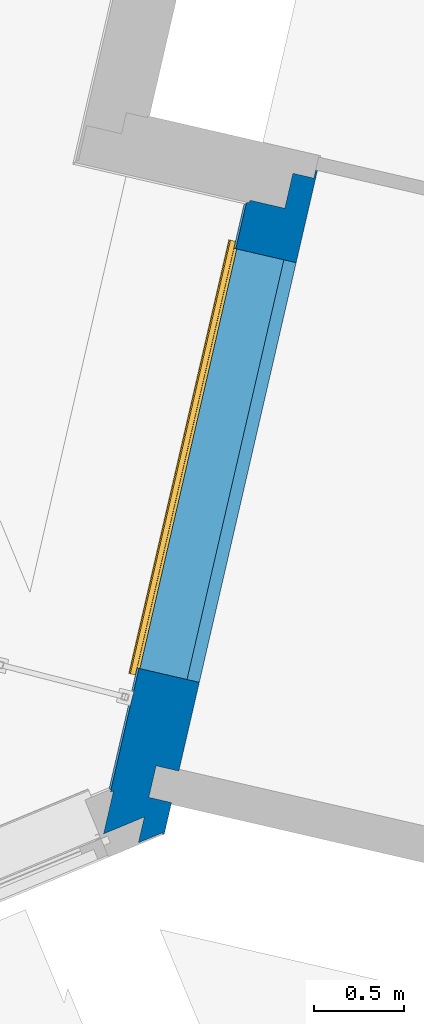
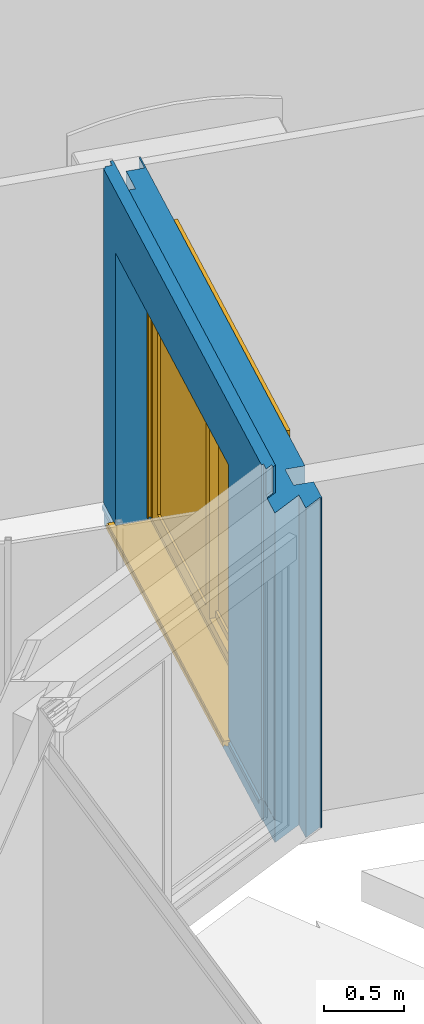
# One storey, part 17 of 119: 1 wall, 1 window, 1 opening.
"""IFC2X3 building model written with IfcOpenShell, lengths in metres."""

from ifc_helpers import new_model, entity, si_unit, converted_unit, derived_unit, money_unit, direction, frame, origin_with_axes, place, context, subcontext, project, spatial, open_shell, faceted_brep, surface_model, source, transform, mapped, material, material_list, type_object, element, fill, save


model = new_model("IFC2X3")

# Units and contexts
model_context = context("Model", 3, precision=1e-05, world=origin_with_axes(), true_north=direction((0.0, 1.0)))
body_context = subcontext(model_context, "Body", "Model", "MODEL_VIEW")
ifc_project = project(units=[si_unit("LENGTHUNIT", "METRE"), si_unit("AREAUNIT", "SQUARE_METRE"), si_unit("VOLUMEUNIT", "CUBIC_METRE"), converted_unit("PLANEANGLEUNIT", "DEGREE", entity("IfcPlaneAngleMeasure", 0.0174532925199), si_unit("PLANEANGLEUNIT", "RADIAN"), dimensions=[0, 0, 0, 0, 0, 0, 0]), si_unit("SOLIDANGLEUNIT", "STERADIAN"), money_unit("EUR"), converted_unit("TIMEUNIT", "Year", entity("IfcTimeMeasure", 31556926.0), si_unit("TIMEUNIT", "SECOND"), dimensions=[0, 0, 1, 0, 0, 0, 0]), si_unit("MASSUNIT", "GRAM", prefix="KILO"), si_unit("THERMODYNAMICTEMPERATUREUNIT", "DEGREE_CELSIUS"), si_unit("LUMINOUSINTENSITYUNIT", "LUMEN"), si_unit("ENERGYUNIT", "JOULE", prefix="MEGA"), derived_unit("THERMALCONDUCTANCEUNIT", [(si_unit("POWERUNIT", "WATT"), 1), (si_unit("LENGTHUNIT", "METRE"), -1), (si_unit("THERMODYNAMICTEMPERATUREUNIT", "KELVIN"), -1)]), derived_unit("SPECIFICHEATCAPACITYUNIT", [(si_unit("ENERGYUNIT", "JOULE"), 1), (si_unit("MASSUNIT", "GRAM", prefix="KILO"), -1), (si_unit("THERMODYNAMICTEMPERATUREUNIT", "KELVIN"), -1)]), derived_unit("MASSDENSITYUNIT", [(si_unit("MASSUNIT", "GRAM", prefix="KILO"), 1), (si_unit("VOLUMEUNIT", "CUBIC_METRE"), -1)])], contexts=[model_context])

# Site, building, storey
site_placement = place(None, origin_with_axes())
site = spatial("IfcSite", under=ifc_project, at=site_placement, Name="Site", CompositionType="ELEMENT")
building_placement = place(site_placement, origin_with_axes())
building = spatial("IfcBuilding", under=site, at=building_placement, Name="Bâtiment", CompositionType="ELEMENT")
storey_placement = place(building_placement, origin_with_axes())
storey = spatial("IfcBuildingStorey", under=building, at=storey_placement, Name="Rez-de-chaussée", CompositionType="ELEMENT", Elevation=0.0)

# Wall, opening, window
ifc_material_1 = material(Name="Finition int - Plaque de plâtre")
ifc_material_2 = material(Name="Isolation - Polystyrène extrudé")
ifc_material_3 = material(Name="Bloc ELITHERM")
ifc_material_4 = material(Name="Isolation - Polystyrène expansé")
ifc_material_5 = material(Name="Mortier")
ifc_material_6 = material(Name="Béton cellulaire")
ifc_material_7 = material(Name="Etanchéité - Bitume")
ifc_material_8 = material(Name="Finition ext - Crépis")
ifc_material_9 = material(Name="Métal - Aluminium")
ifc_material_list = material_list([ifc_material_1, ifc_material_2, ifc_material_3, ifc_material_4, ifc_material_5, ifc_material_6, ifc_material_7, ifc_material_8, ifc_material_9])
wall_type = type_object("IfcWallType", Name="Mur ALKERN + planelle 21 TERRASSE RDC 356 x 2720", PredefinedType="USERDEFINED")
wall_placement = place(storey_placement, frame((-19.0234065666, -9.48828387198, 0.0), z_axis=(0.0, 0.0, 1.0), x_axis=(-0.224876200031, -0.974387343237, 0.0)))
wall = element("IfcWall", 1, at=wall_placement, inside=storey, type_object=wall_type, material=ifc_material_list, Name="Mue bloc ALKERN isolé", ObjectType="SOLIDWALL", context=body_context, shape_type="Brep", body=[
    faceted_brep([(3.35353279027, 0.344999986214, 2.50955), (3.53339989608, 0.344999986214, 2.50955002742), (3.53339989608, 0.344999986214, 0.0), (3.35353279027, 0.344999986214, 0.0), (3.35353279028, 0.335000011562, 2.50955), (3.54053865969, 0.335000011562, 2.50955002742), (3.54053865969, 0.335000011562, 0.0), (3.35353279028, 0.335000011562, 0.0)], [[[0, 1, 2, 3]], [[1, 0, 4, 5]], [[5, 6, 2, 1]], [[6, 7, 3, 2]], [[7, 4, 0, 3]], [[5, 4, 7, 6]]]),
    faceted_brep([(3.17353279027, 0.344999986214, 0.0), (-0.335000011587, 0.344999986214, 0.0), (-0.335000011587, 0.344999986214, 2.50955001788), (3.17353279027, 0.344999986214, 2.50955), (2.66608413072, 0.344999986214, 2.25), (2.66608413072, 0.344999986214, 2.43), (0.266084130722, 0.344999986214, 2.43), (0.266084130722, 0.344999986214, 2.25), (0.266084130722, 0.344999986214, 0.2), (2.66608413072, 0.344999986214, 0.2), (3.17353279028, 0.335000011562, 0.0), (-0.335000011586, 0.335000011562, 0.0), (-0.335000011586, 0.335000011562, 2.50955001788), (3.17353279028, 0.335000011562, 2.50955), (2.66608413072, 0.335000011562, 2.25), (2.66608413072, 0.335000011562, 2.43), (2.66608413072, 0.335000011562, 0.2), (0.266084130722, 0.335000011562, 2.43), (0.266084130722, 0.335000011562, 2.25), (0.266084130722, 0.335000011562, 0.2)], [[[0, 1, 2, 3], [4, 5, 6, 7, 8, 9]], [[10, 11, 1, 0]], [[2, 1, 11, 12]], [[3, 2, 12, 13]], [[13, 10, 0, 3]], [[14, 15, 5, 4, 9, 16]], [[6, 5, 15, 17]], [[7, 6, 17, 18, 19, 8]], [[8, 19, 16, 9]], [[11, 10, 13, 12], [15, 14, 16, 19, 18, 17]]]),
    faceted_brep([(3.35353279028, 0.335000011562, 2.50955), (3.52825199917, 0.335000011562, 2.5095500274), (3.52825199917, 0.335000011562, 0.0), (3.35353279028, 0.335000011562, 0.0), (3.35353279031, 0.21499997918, 2.50955), (3.61391740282, 0.21499997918, 2.50955002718), (3.61391740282, 0.21499997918, 0.0), (3.35353279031, 0.21499997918, 0.0)], [[[0, 1, 2, 3]], [[1, 0, 4, 5]], [[2, 1, 5, 6]], [[6, 7, 3, 2]], [[7, 4, 0, 3]], [[5, 4, 7, 6]]]),
    faceted_brep([(0.266084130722, 0.21499997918, 0.2), (0.266084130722, 0.21499997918, 0.14), (0.266084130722, 0.274560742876, 0.14), (0.266084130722, 0.274560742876, 0.2), (0.266084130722, 0.335000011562, 0.2), (0.266084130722, 0.335000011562, 2.25), (0.266084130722, 0.335000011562, 2.43), (0.266084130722, 0.21499997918, 2.43), (0.266084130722, 0.21499997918, 2.25), (3.17353279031, 0.21499997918, 2.50955), (-0.214999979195, 0.21499997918, 2.50955001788), (-0.214999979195, 0.21499997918, 0.0), (3.17353279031, 0.21499997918, 0.0), (2.66608413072, 0.21499997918, 2.43), (2.66608413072, 0.21499997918, 2.25), (2.66608413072, 0.21499997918, 0.2), (2.66608413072, 0.21499997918, 0.14), (2.66608413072, 0.274560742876, 0.14), (2.66608413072, 0.274560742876, 0.2), (2.66608413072, 0.335000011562, 0.2), (-0.214999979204, 0.335000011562, 2.50955001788), (3.17353279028, 0.335000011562, 2.50955), (3.17353279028, 0.335000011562, 0.0), (-0.214999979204, 0.335000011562, 0.0), (2.66608413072, 0.335000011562, 2.25), (2.66608413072, 0.335000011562, 2.43)], [[[0, 1, 2, 3, 4, 5, 6, 7, 8]], [[9, 10, 11, 12], [1, 0, 8, 7, 13, 14, 15, 16]], [[1, 16, 17, 2]], [[18, 3, 2, 17]], [[3, 18, 19, 4]], [[20, 21, 22, 23], [5, 4, 19, 24, 25, 6]], [[25, 13, 7, 6]], [[10, 9, 21, 20]], [[11, 10, 20, 23]], [[23, 22, 12, 11]], [[22, 21, 9, 12]], [[18, 17, 16, 15, 14, 13, 25, 24, 19]]]),
    faceted_brep([(0.266084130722, 0.0160453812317, 0.207793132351), (0.266084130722, 0.0160453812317, 0.2), (0.266084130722, 0.0160453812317, 0.1697277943), (0.266084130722, 0.015, 0.169414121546), (0.266084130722, 0.0150000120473, 0.160000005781), (0.266084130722, 0.0150000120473, 0.14), (0.266084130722, 0.214999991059, 0.14), (0.266084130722, 0.214999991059, 0.2), (0.266084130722, 0.214999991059, 2.25), (0.266084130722, 0.214999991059, 2.43), (0.266084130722, 0.203560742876, 2.43), (0.266084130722, 0.203560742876, 2.25), (0.266084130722, 0.015, 2.25), (0.266084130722, 0.015, 0.207793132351), (-0.016045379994, 0.0160453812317, 0.169727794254), (-0.0150000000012, 0.0160453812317, 0.207793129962), (-0.0160453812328, 0.0160453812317, 0.207793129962), (-0.0150000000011, 0.015, 0.169414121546), (-0.0150000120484, 0.0150000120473, 0.160000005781), (2.66608413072, 0.0150000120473, 0.14), (-0.0150000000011, 0.015, 0.0), (3.60925296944, 0.015, 0.0), (3.60925296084, 0.0150000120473, 0.160000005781), (2.66608413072, 0.0150000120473, 0.160000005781), (2.66608413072, 0.214999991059, 0.14), (-0.0150000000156, 0.214999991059, 2.50955001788), (3.46647734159, 0.214999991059, 2.50955002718), (3.46647734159, 0.214999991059, 0.0), (-0.0150000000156, 0.214999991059, 0.0), (-0.015000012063, 0.214999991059, 0.160000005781), (-0.0150000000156, 0.214999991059, 0.169414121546), (-0.0160453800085, 0.214999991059, 0.169727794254), (-0.0160453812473, 0.214999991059, 0.207793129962), (-0.0150000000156, 0.214999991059, 0.207793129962), (2.66608413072, 0.214999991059, 0.2), (2.66608413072, 0.214999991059, 2.25), (2.66608413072, 0.214999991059, 2.43), (2.66608413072, 0.203560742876, 2.43), (2.66608413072, 0.203560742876, 2.25), (2.66608413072, 0.015, 2.25), (2.66608413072, 0.015, 0.207793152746), (3.60925296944, 0.015, 0.207793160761), (3.60925296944, 0.015, 2.50955002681), (-0.0150000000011, 0.015, 2.50955001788), (-0.0150000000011, 0.015, 0.207793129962), (3.56070926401, 0.0829999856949, 2.50955002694), (3.6085066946, 0.0160453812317, 0.207793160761), (3.6085066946, 0.0160453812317, 0.169727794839), (3.60925296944, 0.015, 0.169414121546), (2.66608413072, 0.015, 0.169414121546), (2.66608413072, 0.0160453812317, 0.169727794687), (2.66608413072, 0.0160453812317, 0.2), (2.66608413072, 0.0160453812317, 0.20779315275), (-0.015000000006, 0.0829999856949, 2.50955001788)], [[[0, 1, 2, 3, 4, 5, 6, 7, 8, 9, 10, 11, 12, 13]], [[14, 2, 1, 0, 15, 16]], [[17, 3, 2, 14]], [[18, 4, 3, 17]], [[19, 5, 4, 18, 20, 21, 22, 23]], [[19, 24, 6, 5]], [[25, 26, 27, 28, 29, 30, 31, 32, 33], [6, 24, 34, 35, 36, 9, 8, 7]], [[9, 36, 37, 10]], [[38, 11, 10, 37]], [[11, 38, 39, 12]], [[40, 41, 42, 43, 44, 13, 12, 39]], [[13, 44, 15, 0]], [[33, 32, 16, 15]], [[14, 16, 32, 31]], [[17, 14, 31, 30]], [[29, 18, 17, 30]], [[18, 29, 28, 20]], [[21, 20, 28, 27]], [[26, 45, 42, 41, 46, 47, 48, 22, 21, 27]], [[48, 49, 23, 22]], [[35, 34, 24, 19, 23, 49, 50, 51, 52, 40, 39, 38, 37, 36]], [[25, 53, 45, 26]], [[53, 25, 33, 15, 44, 43]], [[52, 46, 41, 40]], [[53, 43, 42, 45]], [[52, 51, 50, 47, 46]], [[47, 50, 49, 48]]]),
    faceted_brep([(3.39852529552, 0.0830000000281, 2.72), (3.39852529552, 0.0830000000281, 2.51999998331), (-0.0630000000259, 0.0830000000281, 2.51999999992), (-0.0630000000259, 0.0830000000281, 2.72), (3.41280285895, 0.0630000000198, 2.72), (3.41280285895, 0.0630000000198, 2.51999998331), (-0.0630000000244, 0.0630000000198, 2.51999999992), (-0.0630000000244, 0.0630000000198, 2.72)], [[[0, 1, 2, 3]], [[0, 4, 5, 1]], [[1, 5, 6, 2]], [[2, 6, 7, 3]], [[4, 0, 3, 7]], [[5, 4, 7, 6]]]),
    faceted_brep([(-0.015000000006, 0.083, 2.50955), (-0.015000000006, 0.083, 2.52), (3.39852529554, 0.083, 2.51999998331), (3.39852523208, 0.083, 2.50955002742), (-0.0150000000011, 0.015, 2.52), (-0.0150000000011, 0.015, 2.50955), (3.44706901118, 0.015, 2.51999998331), (3.44706894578, 0.015, 2.50955002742)], [[[0, 1, 2, 3]], [[4, 1, 0, 5]], [[1, 4, 6, 2]], [[7, 3, 2, 6]], [[5, 0, 3, 7]], [[4, 5, 7, 6]]]),
    faceted_brep([(3.42249564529, 0.015, 2.71999999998), (3.38822949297, 0.0630000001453, 2.71999999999), (-0.0150000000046, 0.0630000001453, 2.72), (-0.0150000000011, 0.015, 2.72), (3.38822949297, 0.0630000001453, 2.5199999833), (3.42249564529, 0.015, 2.51999998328), (-0.0150000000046, 0.0630000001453, 2.51999999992), (-0.0150000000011, 0.015, 2.51999999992)], [[[0, 1, 2, 3]], [[4, 1, 0, 5]], [[1, 4, 6, 2]], [[3, 2, 6, 7]], [[5, 0, 3, 7]], [[4, 5, 7, 6]]]),
    faceted_brep([(0.266084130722, 0.005, 0.160000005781), (0.266084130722, 0.0150000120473, 0.160000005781), (-0.00500000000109, 0.0150000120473, 0.160000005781), (-0.00500000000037, 0.005, 0.160000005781), (0.266084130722, 0.0149815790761, 0.14), (0.266084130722, 0.005, 0.14), (2.66608413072, 0.0149815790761, 0.14), (2.66608413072, 0.0150000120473, 0.160000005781), (3.36351964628, 0.0150000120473, 0.160000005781), (-0.00500000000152, 0.0149999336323, 0.01), (-0.00500000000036, 0.005, 0.01), (3.3706584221, 0.00499999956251, 0.01), (3.37065843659, 0.005, 0.160000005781), (2.66608413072, 0.005, 0.160000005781), (2.66608413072, 0.005, 0.14), (3.36353279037, 0.0149815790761, 0.01)], [[[0, 1, 2, 3]], [[4, 1, 0, 5]], [[6, 7, 8, 9, 2, 1, 4]], [[10, 3, 2, 9]], [[5, 0, 3, 10, 11, 12, 13, 14]], [[6, 4, 5, 14]], [[13, 7, 6, 14]], [[7, 13, 12, 8]], [[15, 9, 8]], [[9, 15, 11, 10]], [[15, 8, 12, 11]]]),
    faceted_brep([(0.266084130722, 0.0150000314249, 0.2), (0.266084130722, 0.0150000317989, 0.176532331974), (-3.18970805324e-09, 0.0150000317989, 0.176532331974), (-3.18970805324e-09, 0.0149999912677, 2.72), (3.36351964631, 0.0149999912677, 2.71999999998), (3.36351961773, 0.0150000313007, 0.207793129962), (3.36351965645, 0.0150000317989, 0.176532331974), (2.66608413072, 0.0150000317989, 0.176532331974), (2.66608413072, 0.0150000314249, 0.2), (2.66608413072, 0.0149999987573, 2.25), (0.266084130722, 0.0149999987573, 2.25), (0.266084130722, 2.81464807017e-09, 0.2), (0.266084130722, 3.18861026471e-09, 0.176532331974), (0.266084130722, -2.98529414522e-08, 2.25), (-3.18861737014e-09, 3.18861381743e-09, 0.176532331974), (-3.18861737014e-09, 3.18861737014e-09, 2.72), (3.37422781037, 3.18861026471e-09, 2.71999999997), (3.37422781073, 2.69046296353e-09, 0.207793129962), (3.37422784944, 3.18861381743e-09, 0.176532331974), (2.66608413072, 3.18861381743e-09, 0.176532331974), (2.66608413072, 2.81464807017e-09, 0.2), (2.66608413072, -2.98529378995e-08, 2.25)], [[[0, 1, 2, 3, 4, 5, 6, 7, 8, 9, 10]], [[11, 12, 1, 0, 10, 13]], [[1, 12, 14, 2]], [[3, 2, 14, 15]], [[4, 3, 15, 16]], [[16, 17, 5, 4]], [[17, 18, 6, 5]], [[19, 7, 6, 18]], [[8, 7, 19, 20, 21, 9]], [[9, 21, 13, 10]], [[12, 11, 13, 21, 20, 19, 18, 17, 16, 15, 14]]]),
    faceted_brep([(0.266084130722, 0.0150000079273, 0.2), (0.266084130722, 0.0160453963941, 0.2), (0.266084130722, 0.0160453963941, 0.207793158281), (0.266084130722, 0.015, 0.207793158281), (0.266084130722, 0.0160453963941, 0.169727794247), (0.266084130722, 0.0150000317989, 0.176532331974), (0.266084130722, 0.015, 0.170774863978), (0.266084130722, -0.0114392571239, 0.162931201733), (0.266084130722, -0.0114392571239, 0.14), (0.266084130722, -0.010205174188, 0.14), (0.266084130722, -0.0102051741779, 0.161852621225), (0.266084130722, 0.015, 0.169414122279), (-0.0114705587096, 0.0160453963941, 0.169727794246), (-0.0149999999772, 0.0160453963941, 0.17077486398), (-0.0150000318, 0.0160453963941, 0.176532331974), (-0.0150000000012, 0.0160453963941, 0.207793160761), (-0.0150000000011, 0.015, 0.207793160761), (-0.0150000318, 0.0150000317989, 0.176532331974), (-0.0149999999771, 0.015, 0.17077486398), (-0.0104132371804, 0.0104132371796, 0.169414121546), (0.0114392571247, -0.0114392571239, 0.162931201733), (0.0114392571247, -0.0114392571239, 0.160000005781), (0.0114392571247, -0.0114392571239, 0.133633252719), (3.35142530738, -0.0114392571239, 0.133633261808), (3.35142530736, -0.011439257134, 0.160000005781), (3.35142530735, -0.0114392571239, 0.161852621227), (3.35584272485, -0.0114392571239, 0.162931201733), (2.66608413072, -0.0114392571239, 0.162931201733), (2.66608413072, -0.0114392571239, 0.14), (2.66608413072, -0.010205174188, 0.14), (2.66608413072, -0.0102051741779, 0.161852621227), (3.35054432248, -0.0102051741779, 0.161852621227), (3.35054432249, -0.010205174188, 0.160000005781), (3.3505443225, -0.0102051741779, 0.133633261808), (0.0114392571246, -0.0102051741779, 0.133633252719), (0.0114392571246, -0.0102051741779, 0.160000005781), (0.0114392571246, -0.0102051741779, 0.161852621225), (0.0114392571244, -0.00660987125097, 0.162931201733), (-0.0104132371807, 0.015, 0.169414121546), (3.36351964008, 0.015, 0.169414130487), (3.36679400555, 0.010413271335, 0.169414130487), (2.66608413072, 0.015, 0.170774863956), (3.3673236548, 0.0114705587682, 0.169727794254), (3.36480406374, 0.015, 0.17077486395), (2.66608413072, 0.0150000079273, 0.2), (2.66608413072, 0.0160453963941, 0.2), (2.66608413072, 0.0160453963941, 0.169727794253), (2.66608413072, 0.015, 0.169414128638), (2.66608413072, 0.0150000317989, 0.176532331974), (3.36405777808, 0.0160453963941, 0.169727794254), (3.36405777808, 0.0160453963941, 0.176532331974), (3.36480404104, 0.0150000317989, 0.176532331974), (2.66608413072, 0.015, 0.207793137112), (2.66608413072, 0.0160453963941, 0.207793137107), (3.36405777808, 0.0160453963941, 0.207793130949), (3.36480406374, 0.015, 0.207793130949)], [[[0, 1, 2, 3]], [[4, 1, 0, 5, 6, 7, 8, 9, 10, 11]], [[1, 4, 12, 13, 14, 15, 2]], [[2, 15, 16, 3]], [[5, 0, 3, 16, 17]], [[6, 5, 17, 18]], [[7, 6, 18, 19, 20]], [[8, 7, 20, 21, 22, 23, 24, 25, 26, 27, 28]], [[29, 9, 8, 28]], [[29, 30, 31, 32, 33, 34, 35, 36, 10, 9]], [[11, 10, 36, 37, 38]], [[4, 11, 38, 12]], [[18, 13, 12, 38, 19]], [[18, 17, 14, 13]], [[17, 16, 15, 14]], [[19, 38, 37, 20]], [[36, 35, 21, 20, 37]], [[21, 35, 34, 22]], [[34, 33, 23, 22]], [[32, 24, 23, 33]], [[32, 31, 25, 24]], [[26, 25, 31, 39, 40]], [[41, 27, 26, 40, 42, 43]], [[44, 45, 46, 47, 30, 29, 28, 27, 41, 48]], [[30, 47, 39, 31]], [[40, 39, 49, 42]], [[49, 50, 51, 43, 42]], [[48, 41, 43, 51]], [[45, 44, 52, 53]], [[46, 45, 53, 54, 50, 49]], [[47, 46, 49, 39]], [[44, 48, 51, 55, 52]], [[55, 51, 50, 54]], [[52, 55, 54, 53]]]),
])
opening_placement = place(wall_placement, frame((1.46608413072, 0.0, 0.2), z_axis=(0.0, 0.0, 1.0), x_axis=(1.0, 0.0, 0.0)))
opening = element("IfcOpeningElement", 2, at=opening_placement, cuts=wall, Name="MEN 17", context=body_context, shape_type="Brep", body=[
    faceted_brep([(-1.2, 0.834999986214, 0.0), (1.2, 0.834999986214, 0.0), (1.2, 0.233560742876, 0.0), (-1.2, 0.233560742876, 0.0), (-1.2, 0.834999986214, 2.05), (1.2, 0.834999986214, 2.05), (1.2, 0.233560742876, 2.05), (-1.2, 0.233560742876, 2.05)], [[[0, 1, 2, 3]], [[0, 4, 5, 1]], [[1, 5, 6, 2]], [[3, 2, 6, 7]], [[4, 0, 3, 7]], [[5, 4, 7, 6]]]),
    faceted_brep([(-1.2, -0.367878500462, 0.0), (-1.2, -0.367878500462, 2.05), (-1.2, 0.233560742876, 2.05), (-1.2, 0.233560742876, 0.0), (1.2, -0.367878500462, 0.0), (1.2, -0.367878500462, 2.05), (1.2, 0.233560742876, 2.05), (1.2, 0.233560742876, 0.0)], [[[0, 1, 2, 3]], [[0, 4, 5, 1]], [[1, 5, 6, 2]], [[3, 2, 6, 7]], [[4, 0, 3, 7]], [[5, 4, 7, 6]]]),
    faceted_brep([(-1.2, -0.367878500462, 0.0), (-1.2, -0.367878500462, 2.05), (-1.2, 0.233560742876, 2.05), (-1.2, 0.233560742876, 0.0), (1.2, -0.367878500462, 0.0), (1.2, -0.367878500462, 2.05), (1.2, 0.233560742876, 2.05), (1.2, 0.233560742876, 0.0)], [[[0, 1, 2, 3]], [[0, 4, 5, 1]], [[1, 5, 6, 2]], [[3, 2, 6, 7]], [[4, 0, 3, 7]], [[5, 4, 7, 6]]]),
    faceted_brep([(-1.2, 0.804999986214, 2.05), (1.2, 0.804999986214, 2.05), (1.2, 0.203560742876, 2.05), (-1.2, 0.203560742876, 2.05), (-1.2, 0.804999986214, 2.23), (1.2, 0.804999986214, 2.23), (1.2, 0.203560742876, 2.23), (-1.2, 0.203560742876, 2.23)], [[[0, 1, 2, 3]], [[0, 4, 5, 1]], [[1, 5, 6, 2]], [[3, 2, 6, 7]], [[4, 0, 3, 7]], [[5, 4, 7, 6]]]),
    faceted_brep([(-1.2, -0.326878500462, 0.0), (1.2, -0.326878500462, 0.0), (1.2, 0.274560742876, 0.0), (-1.2, 0.274560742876, 0.0), (-1.2, -0.326878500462, -0.06), (1.2, -0.326878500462, -0.06), (1.2, 0.274560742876, -0.06), (-1.2, 0.274560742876, -0.06)], [[[0, 1, 2, 3]], [[0, 4, 5, 1]], [[1, 5, 6, 2]], [[3, 2, 6, 7]], [[4, 0, 3, 7]], [[5, 4, 7, 6]]]),
])
window_style = type_object("IfcWindowStyle", Name="Baie générique 2017 v2", ConstructionType="NOTDEFINED", OperationType="NOTDEFINED", ParameterTakesPrecedence=False, Sizeable=False)
shared_shape = source(origin_with_axes(), body_context, "Body", "SurfaceModel", [
    faceted_brep([(-1.2, 0.1, 0.0), (1.2, 0.1, 0.0), (1.2, 0.0, 0.0), (-1.2, 0.0, 0.0), (-1.2, 0.1, 2.05), (1.2, 0.1, 2.05), (-1.14, 0.1, 0.05), (1.14, 0.1, 0.05), (1.14, 0.1, 2.0), (-1.14, 0.1, 2.0), (1.2, 0.0, 2.05), (-1.2, 0.0, 2.05), (-1.14, 0.0, 0.05), (-1.14, 0.0, 2.0), (1.14, 0.0, 2.0), (1.14, 0.0, 0.05)], [[[0, 1, 2, 3]], [[0, 4, 5, 1], [6, 7, 8, 9]], [[1, 5, 10, 2]], [[3, 2, 10, 11], [12, 13, 14, 15]], [[4, 0, 3, 11]], [[5, 4, 11, 10]], [[7, 6, 12, 15]], [[8, 7, 15, 14]], [[9, 8, 14, 13]], [[6, 9, 13, 12]]]),
    faceted_brep([(-1.14, 0.04, 0.05), (-1.14, 0.04, 2.0), (0.035, 0.04, 2.0), (0.035, 0.04, 0.05), (-0.035, 0.04, 1.93), (-1.07, 0.04, 1.93), (-1.07, 0.04, 0.1), (-0.035, 0.04, 0.1), (-1.14, 0.0, 2.0), (-1.14, 0.02, 2.0), (-1.14, 0.02, 0.05), (-1.14, 0.0, 0.05), (0.035, 0.0, 2.0), (0.035, 0.02, 2.0), (0.035, 0.0, 0.05), (0.035, 0.02, 0.05), (-0.035, 0.0, 1.93), (-1.07, 0.0, 1.93), (-1.07, 0.0, 0.1), (-0.035, 0.0, 0.1)], [[[0, 1, 2, 3], [4, 5, 6, 7]], [[8, 9, 1, 0, 10, 11]], [[12, 13, 2, 1, 9, 8]], [[13, 12, 14, 15, 3, 2]], [[15, 14, 11, 10, 0, 3]], [[5, 4, 16, 17]], [[18, 6, 5, 17]], [[19, 7, 6, 18]], [[4, 7, 19, 16]], [[12, 8, 11, 14], [19, 18, 17, 16]]]),
    surface_model("IfcShellBasedSurfaceModel", [(-1.14, 0.04, 0.05), (-1.14, 0.04, 2.0), (0.035, 0.04, 2.0), (0.035, 0.04, 0.05), (-1.07, 0.04, 0.1), (-0.035, 0.04, 0.1), (-0.035, 0.04, 1.93), (-1.07, 0.04, 1.93)], [open_shell([[[0, 1, 2, 3], [4, 5, 6, 7]]])]),
    surface_model("IfcShellBasedSurfaceModel", [(-1.14, 0.0, 0.05), (-1.14, 0.0, 2.0), (0.035, 0.0, 2.0), (0.035, 0.0, 0.05), (-1.07, 0.0, 0.1), (-0.035, 0.0, 0.1), (-0.035, 0.0, 1.93), (-1.07, 0.0, 1.93)], [open_shell([[[0, 1, 2, 3], [4, 5, 6, 7]]])]),
    faceted_brep([(-1.07, 0.0225, 0.1), (-0.035, 0.0225, 0.1), (-0.035, 0.0175, 0.1), (-1.07, 0.0175, 0.1), (-1.07, 0.0225, 1.93), (-0.035, 0.0225, 1.93), (-0.035, 0.0175, 1.93), (-1.07, 0.0175, 1.93)], [[[0, 1, 2, 3]], [[0, 4, 5, 1]], [[1, 5, 6, 2]], [[3, 2, 6, 7]], [[4, 0, 3, 7]], [[5, 4, 7, 6]]]),
    faceted_brep([(-0.035, 0.08, 0.05), (-0.035, 0.08, 2.0), (1.14, 0.08, 2.0), (1.14, 0.08, 0.05), (1.07, 0.08, 1.93), (0.035, 0.08, 1.93), (0.035, 0.08, 0.1), (1.07, 0.08, 0.1), (-0.035, 0.04, 2.0), (-0.035, 0.06, 2.0), (-0.035, 0.06, 0.05), (-0.035, 0.04, 0.05), (1.14, 0.04, 2.0), (1.14, 0.06, 2.0), (1.14, 0.04, 0.05), (1.14, 0.06, 0.05), (1.07, 0.04, 1.93), (0.035, 0.04, 1.93), (0.035, 0.04, 0.1), (1.07, 0.04, 0.1)], [[[0, 1, 2, 3], [4, 5, 6, 7]], [[8, 9, 1, 0, 10, 11]], [[12, 13, 2, 1, 9, 8]], [[13, 12, 14, 15, 3, 2]], [[15, 14, 11, 10, 0, 3]], [[5, 4, 16, 17]], [[18, 6, 5, 17]], [[19, 7, 6, 18]], [[4, 7, 19, 16]], [[12, 8, 11, 14], [19, 18, 17, 16]]]),
    surface_model("IfcShellBasedSurfaceModel", [(-0.035, 0.08, 0.05), (-0.035, 0.08, 2.0), (1.14, 0.08, 2.0), (1.14, 0.08, 0.05), (0.035, 0.08, 0.1), (1.07, 0.08, 0.1), (1.07, 0.08, 1.93), (0.035, 0.08, 1.93)], [open_shell([[[0, 1, 2, 3], [4, 5, 6, 7]]])]),
    surface_model("IfcShellBasedSurfaceModel", [(-0.035, 0.04, 0.05), (-0.035, 0.04, 2.0), (1.14, 0.04, 2.0), (1.14, 0.04, 0.05), (0.035, 0.04, 0.1), (1.07, 0.04, 0.1), (1.07, 0.04, 1.93), (0.035, 0.04, 1.93)], [open_shell([[[0, 1, 2, 3], [4, 5, 6, 7]]])]),
    faceted_brep([(0.035, 0.0625, 0.1), (1.07, 0.0625, 0.1), (1.07, 0.0575, 0.1), (0.035, 0.0575, 0.1), (0.035, 0.0625, 1.93), (1.07, 0.0625, 1.93), (1.07, 0.0575, 1.93), (0.035, 0.0575, 1.93)], [[[0, 1, 2, 3]], [[0, 4, 5, 1]], [[1, 5, 6, 2]], [[3, 2, 6, 7]], [[4, 0, 3, 7]], [[5, 4, 7, 6]]]),
    faceted_brep([(-1.2, -0.03, 0.0), (-1.175, -0.03, 0.0), (-1.175, -0.03, 2.05), (-1.2, -0.03, 2.05), (-1.2, -0.002, 0.0), (-1.175, -0.002, 0.0), (-1.175, -0.004, 0.0), (-1.198, -0.004, 0.0), (-1.198, -0.028, 0.0), (-1.175, -0.028, 0.0), (-1.175, -0.028, 2.05), (-1.198, -0.028, 2.05), (-1.198, -0.004, 2.05), (-1.175, -0.004, 2.05), (-1.175, -0.002, 2.05), (-1.2, -0.002, 2.05)], [[[0, 1, 2, 3]], [[0, 4, 5, 6, 7, 8, 9, 1]], [[1, 9, 10, 2]], [[3, 2, 10, 11, 12, 13, 14, 15]], [[4, 0, 3, 15]], [[5, 4, 15, 14]], [[6, 5, 14, 13]], [[7, 6, 13, 12]], [[8, 7, 12, 11]], [[9, 8, 11, 10]]]),
    faceted_brep([(1.2, -0.03, 0.0), (1.2, -0.03, 2.05), (1.175, -0.03, 2.05), (1.175, -0.03, 0.0), (1.2, -0.002, 0.0), (1.2, -0.002, 2.05), (1.175, -0.002, 2.05), (1.175, -0.004, 2.05), (1.198, -0.004, 2.05), (1.198, -0.028, 2.05), (1.175, -0.028, 2.05), (1.175, -0.028, 0.0), (1.198, -0.028, 0.0), (1.198, -0.004, 0.0), (1.175, -0.004, 0.0), (1.175, -0.002, 0.0)], [[[0, 1, 2, 3]], [[4, 5, 1, 0]], [[1, 5, 6, 7, 8, 9, 10, 2]], [[3, 2, 10, 11]], [[0, 3, 11, 12, 13, 14, 15, 4]], [[15, 6, 5, 4]], [[14, 7, 6, 15]], [[13, 8, 7, 14]], [[12, 9, 8, 13]], [[11, 10, 9, 12]]]),
    faceted_brep([(1.198, -0.028, 2.05), (-1.198, -0.028, 2.05), (-1.198, -0.028, 2.228), (1.198, -0.028, 2.228), (1.198, -0.03, 2.05), (-1.198, -0.03, 2.05), (-1.198, -0.03, 2.23), (-1.198, 0.17, 2.23), (-1.198, 0.17, 2.05), (-1.198, 0.168, 2.05), (-1.198, 0.168, 2.228), (1.198, 0.168, 2.228), (1.198, 0.168, 2.05), (1.198, 0.17, 2.05), (1.198, 0.17, 2.23), (1.198, -0.03, 2.23)], [[[0, 1, 2, 3]], [[4, 5, 1, 0]], [[1, 5, 6, 7, 8, 9, 10, 2]], [[3, 2, 10, 11]], [[0, 3, 11, 12, 13, 14, 15, 4]], [[15, 6, 5, 4]], [[14, 7, 6, 15]], [[13, 8, 7, 14]], [[12, 9, 8, 13]], [[11, 10, 9, 12]]]),
    faceted_brep([(1.198, 0.0724697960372, 2.12436337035), (1.198, 0.08, 2.14), (1.198, 0.0724697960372, 2.15563662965), (1.198, 0.0555495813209, 2.15949855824), (1.198, 0.041980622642, 2.14867767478), (1.198, 0.041980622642, 2.13132232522), (1.198, 0.0555495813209, 2.12050144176), (-1.198, 0.0724697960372, 2.12436337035), (-1.198, 0.08, 2.14), (-1.198, 0.0724697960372, 2.15563662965), (-1.198, 0.0555495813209, 2.15949855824), (-1.198, 0.041980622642, 2.14867767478), (-1.198, 0.041980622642, 2.13132232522), (-1.198, 0.0555495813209, 2.12050144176)], [[[0, 1, 2, 3, 4, 5, 6]], [[0, 7, 8, 1]], [[1, 8, 9, 2]], [[2, 9, 10, 3]], [[3, 10, 11, 4]], [[4, 11, 12, 5]], [[5, 12, 13, 6]], [[6, 13, 7, 0]], [[7, 13, 12, 11, 10, 9, 8]]]),
    faceted_brep([(1.188, 0.130275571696, 2.10615706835), (1.188, 0.138, 2.14), (1.188, 0.130275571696, 2.17384293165), (1.188, 0.108632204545, 2.20098285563), (1.188, 0.0773566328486, 2.21604437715), (1.188, 0.0426433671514, 2.21604437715), (1.188, 0.011367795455, 2.20098285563), (1.188, -0.0102755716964, 2.17384293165), (1.188, -0.018, 2.14), (1.188, -0.0102755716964, 2.10615706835), (1.188, 0.011367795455, 2.07901714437), (1.188, 0.0426433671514, 2.06395562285), (1.188, 0.0773566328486, 2.06395562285), (1.188, 0.108632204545, 2.07901714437), (-1.188, 0.130275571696, 2.10615706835), (-1.188, 0.138, 2.14), (-1.188, 0.130275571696, 2.17384293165), (-1.188, 0.108632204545, 2.20098285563), (-1.188, 0.0773566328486, 2.21604437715), (-1.188, 0.0426433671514, 2.21604437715), (-1.188, 0.011367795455, 2.20098285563), (-1.188, -0.0102755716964, 2.17384293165), (-1.188, -0.018, 2.14), (-1.188, -0.0102755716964, 2.10615706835), (-1.188, 0.011367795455, 2.07901714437), (-1.188, 0.0426433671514, 2.06395562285), (-1.188, 0.0773566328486, 2.06395562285), (-1.188, 0.108632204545, 2.07901714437)], [[[0, 1, 2, 3, 4, 5, 6, 7, 8, 9, 10, 11, 12, 13]], [[0, 14, 15, 1]], [[1, 15, 16, 2]], [[2, 16, 17, 3]], [[3, 17, 18, 4]], [[4, 18, 19, 5]], [[5, 19, 20, 6]], [[6, 20, 21, 7]], [[7, 21, 22, 8]], [[8, 22, 23, 9]], [[9, 23, 24, 10]], [[10, 24, 25, 11]], [[11, 25, 26, 12]], [[12, 26, 27, 13]], [[13, 27, 14, 0]], [[14, 27, 26, 25, 24, 23, 22, 21, 20, 19, 18, 17, 16, 15]]]),
    faceted_brep([(1.2, 0.17, 2.05), (1.198, 0.17, 2.05), (1.198, 0.17, 2.23), (1.2, 0.17, 2.23), (1.2, -0.03, 2.05), (1.198, -0.03, 2.05), (1.198, -0.03, 2.23), (1.2, -0.03, 2.23)], [[[0, 1, 2, 3]], [[4, 5, 1, 0]], [[1, 5, 6, 2]], [[3, 2, 6, 7]], [[0, 3, 7, 4]], [[7, 6, 5, 4]]]),
    faceted_brep([(-1.198, 0.17, 2.05), (-1.2, 0.17, 2.05), (-1.2, 0.17, 2.23), (-1.198, 0.17, 2.23), (-1.198, -0.03, 2.05), (-1.2, -0.03, 2.05), (-1.2, -0.03, 2.23), (-1.198, -0.03, 2.23)], [[[0, 1, 2, 3]], [[4, 5, 1, 0]], [[1, 5, 6, 2]], [[3, 2, 6, 7]], [[0, 3, 7, 4]], [[7, 6, 5, 4]]]),
    faceted_brep([(1.198, -0.004, 2.05), (-1.198, -0.004, 2.05), (-1.198, 0.168, 2.05), (1.198, 0.168, 2.05), (1.198, -0.004, 2.052), (-1.198, -0.004, 2.052), (-1.198, 0.168, 2.052), (1.198, 0.168, 2.052)], [[[0, 1, 2, 3]], [[4, 5, 1, 0]], [[1, 5, 6, 2]], [[3, 2, 6, 7]], [[0, 3, 7, 4]], [[7, 6, 5, 4]]]),
    faceted_brep([(-1.188, -0.006, 2.05), (-1.188, -0.006, 2.14), (1.188, -0.006, 2.14), (1.188, -0.006, 2.05), (-1.188, -0.026, 2.05), (-1.188, -0.026, 2.14), (1.188, -0.026, 2.14), (1.188, -0.026, 2.05)], [[[0, 1, 2, 3]], [[1, 0, 4, 5]], [[2, 1, 5, 6]], [[3, 2, 6, 7]], [[4, 0, 3, 7]], [[5, 4, 7, 6]]]),
    faceted_brep([(1.2, -0.00167949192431, -0.01), (1.2, 0.0, -0.00373205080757), (1.24, 0.0, -0.00373205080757), (1.24, 0.001, 0.0), (-1.24, 0.001, 0.0), (-1.24, 0.0, -0.00373205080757), (-1.2, 0.0, -0.00373205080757), (-1.2, -0.00167949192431, -0.01), (1.2, -0.009, -0.0173205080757), (1.2, -0.019, -0.02), (1.2, -0.233560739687, -0.02), (1.2, -0.233560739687, -0.06), (1.2, 0.0, -0.06), (1.24, 0.0, -0.06), (1.24, 0.041, -0.06), (1.24, 0.041, 0.0), (-1.24, 0.041, 0.0), (-1.24, 0.041, -0.06), (-1.24, 0.0, -0.06), (-1.2, 0.0, -0.06), (-1.2, -0.233560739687, -0.02), (-1.2, -0.019, -0.02), (-1.2, -0.009, -0.0173205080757), (-1.2, -0.233560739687, -0.06), (-1.24, -0.233560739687, -0.02), (-1.24, -0.273560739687, -0.02), (1.24, -0.273560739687, -0.02), (1.24, -0.233560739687, -0.02), (1.24, -0.233560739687, -0.06), (1.24, -0.263560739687, -0.06), (-1.24, -0.263560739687, -0.06), (-1.24, -0.233560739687, -0.06), (-1.24, -0.283560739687, -0.03), (-1.24, -0.280631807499, -0.0229289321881), (-1.24, -0.263560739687, -0.05), (-1.24, -0.273560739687, -0.05), (-1.24, -0.273560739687, -0.06), (-1.24, -0.283560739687, -0.06), (1.24, -0.280631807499, -0.0229289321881), (1.24, -0.283560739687, -0.03), (1.24, -0.283560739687, -0.06), (1.24, -0.273560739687, -0.06), (1.24, -0.273560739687, -0.05), (1.24, -0.263560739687, -0.05)], [[[0, 1, 2, 3, 4, 5, 6, 7]], [[1, 0, 8, 9, 10, 11, 12]], [[13, 2, 1, 12]], [[2, 13, 14, 15, 3]], [[16, 4, 3, 15]], [[4, 16, 17, 18, 5]], [[5, 18, 19, 6]], [[20, 21, 22, 7, 6, 19, 23]], [[8, 0, 7, 22]], [[9, 8, 22, 21]], [[10, 9, 21, 20, 24, 25, 26, 27]], [[10, 27, 28, 11]], [[11, 28, 29, 30, 31, 23, 19, 18, 17, 14, 13, 12]], [[17, 16, 15, 14]], [[20, 23, 31, 24]], [[32, 33, 25, 24, 31, 30, 34, 35, 36, 37]], [[25, 33, 38, 26]], [[28, 27, 26, 38, 39, 40, 41, 42, 43, 29]], [[34, 30, 29, 43]], [[33, 32, 39, 38]], [[35, 34, 43, 42]], [[36, 35, 42, 41]], [[37, 36, 41, 40]], [[32, 37, 40, 39]]]),
])
window_placement = place(opening_placement, frame((-1.2, 0.0, 0.0), z_axis=(0.0, 0.0, 1.0), x_axis=(1.0, 0.0, 0.0)))
window = element("IfcWindow", 3, at=window_placement, inside=storey, type_object=window_style, Name="MEN 17", ObjectType="WINDOW", OverallHeight=2.05, OverallWidth=2.4, context=body_context, shape_type="MappedRepresentation", body=[
    mapped(shared_shape, transform((1.2, 0.233560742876, 0.0))),
])
fill(opening, window)

save(model, "model.ifc")
